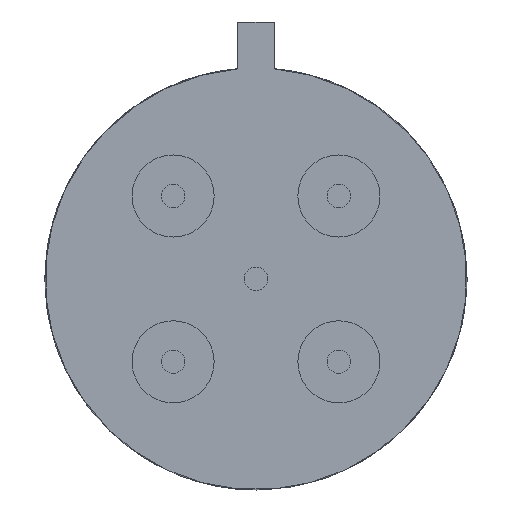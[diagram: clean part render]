
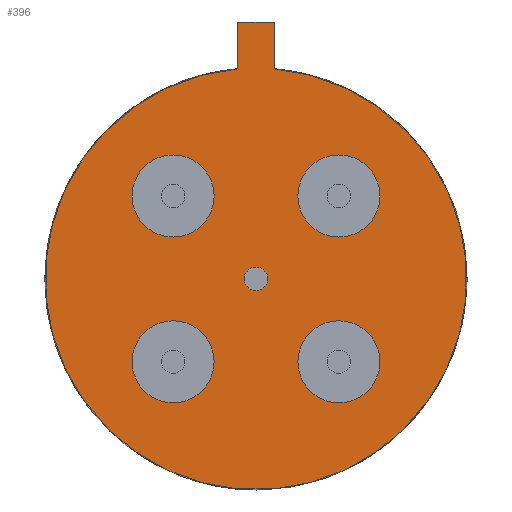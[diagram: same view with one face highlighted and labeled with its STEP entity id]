
A CAD part, front view. The second image highlights one B-rep face of the part: STEP entity #396.
In plain terms, the highlighted planar face has unit normal (0, -1, 0).
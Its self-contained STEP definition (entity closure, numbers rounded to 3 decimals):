
#13 = DIRECTION ( 'NONE',  ( 1., 0., 0. ) ) ;
#31 = VERTEX_POINT ( 'NONE', #162 ) ;
#36 = PLANE ( 'NONE',  #437 ) ;
#57 = DIRECTION ( 'NONE',  ( 0., -1., 0. ) ) ;
#59 = AXIS2_PLACEMENT_3D ( 'NONE', #431, #100, #511 ) ;
#64 = EDGE_CURVE ( 'NONE', #262, #380, #111, .T. ) ;
#66 = CARTESIAN_POINT ( 'NONE',  ( -0.394, -0.762, 0. ) ) ;
#69 = EDGE_CURVE ( 'NONE', #118, #118, #580, .T. ) ;
#76 = FACE_BOUND ( 'NONE', #451, .T. ) ;
#100 = DIRECTION ( 'NONE',  ( 0., 1., 0. ) ) ;
#101 = ORIENTED_EDGE ( 'NONE', *, *, #427, .F. ) ;
#107 = EDGE_LOOP ( 'NONE', ( #557, #406, #462, #444 ) ) ;
#111 = LINE ( 'NONE', #66, #197 ) ;
#118 = VERTEX_POINT ( 'NONE', #418 ) ;
#124 = CARTESIAN_POINT ( 'NONE',  ( 0.394, -0.762, 5.565 ) ) ;
#128 = CARTESIAN_POINT ( 'NONE',  ( 1.796, -0.762, 1.796 ) ) ;
#130 = CARTESIAN_POINT ( 'NONE',  ( 2.685, -0.762, 1.796 ) ) ;
#131 = CIRCLE ( 'NONE', #351, 0.254 ) ;
#135 = CARTESIAN_POINT ( 'NONE',  ( 2.685, -0.762, -1.796 ) ) ;
#137 = FACE_BOUND ( 'NONE', #246, .T. ) ;
#153 = CARTESIAN_POINT ( 'NONE',  ( -0.394, -0.762, 5.565 ) ) ;
#162 = CARTESIAN_POINT ( 'NONE',  ( 0.394, -0.762, 4.549 ) ) ;
#166 = AXIS2_PLACEMENT_3D ( 'NONE', #274, #224, #278 ) ;
#168 = DIRECTION ( 'NONE',  ( 0., 0., -1. ) ) ;
#178 = VERTEX_POINT ( 'NONE', #124 ) ;
#197 = VECTOR ( 'NONE', #280, 1000. ) ;
#205 = DIRECTION ( 'NONE',  ( 0., -1., 0. ) ) ;
#214 = EDGE_LOOP ( 'NONE', ( #101 ) ) ;
#219 = LINE ( 'NONE', #426, #581 ) ;
#224 = DIRECTION ( 'NONE',  ( 0., -1., 0. ) ) ;
#225 = EDGE_CURVE ( 'NONE', #607, #607, #413, .T. ) ;
#243 = DIRECTION ( 'NONE',  ( 0., -1., 0. ) ) ;
#244 = EDGE_CURVE ( 'NONE', #553, #553, #521, .T. ) ;
#246 = EDGE_LOOP ( 'NONE', ( #623 ) ) ;
#247 = DIRECTION ( 'NONE',  ( 0., -1., 0. ) ) ;
#251 = AXIS2_PLACEMENT_3D ( 'NONE', #128, #247, #517 ) ;
#256 = LINE ( 'NONE', #461, #545 ) ;
#260 = CARTESIAN_POINT ( 'NONE',  ( 1.796, -0.762, -1.796 ) ) ;
#262 = VERTEX_POINT ( 'NONE', #153 ) ;
#267 = CARTESIAN_POINT ( 'NONE',  ( -1.796, -0.762, 1.796 ) ) ;
#274 = CARTESIAN_POINT ( 'NONE',  ( -1.796, -0.762, -1.796 ) ) ;
#278 = DIRECTION ( 'NONE',  ( 1., 0., 0. ) ) ;
#280 = DIRECTION ( 'NONE',  ( 0., 0., -1. ) ) ;
#289 = DIRECTION ( 'NONE',  ( 1., 0., 0. ) ) ;
#293 = CARTESIAN_POINT ( 'NONE',  ( -0.394, -0.762, 4.549 ) ) ;
#302 = CIRCLE ( 'NONE', #251, 0.889 ) ;
#308 = EDGE_LOOP ( 'NONE', ( #566 ) ) ;
#311 = EDGE_CURVE ( 'NONE', #178, #31, #219, .T. ) ;
#320 = DIRECTION ( 'NONE',  ( 1., 0., 0. ) ) ;
#339 = CARTESIAN_POINT ( 'NONE',  ( 0.254, -0.762, 0. ) ) ;
#344 = FACE_BOUND ( 'NONE', #308, .T. ) ;
#348 = FACE_OUTER_BOUND ( 'NONE', #107, .T. ) ;
#351 = AXIS2_PLACEMENT_3D ( 'NONE', #363, #574, #673 ) ;
#357 = EDGE_CURVE ( 'NONE', #31, #380, #478, .T. ) ;
#363 = CARTESIAN_POINT ( 'NONE',  ( 0., -0.762, 0. ) ) ;
#366 = EDGE_CURVE ( 'NONE', #262, #178, #256, .T. ) ;
#380 = VERTEX_POINT ( 'NONE', #293 ) ;
#389 = CARTESIAN_POINT ( 'NONE',  ( 0., -0.762, 0. ) ) ;
#395 = ORIENTED_EDGE ( 'NONE', *, *, #225, .F. ) ;
#396 = ADVANCED_FACE ( 'Defeatured_0_12', ( #452, #608, #137, #344, #76, #348 ), #36, .T. ) ;
#397 = VERTEX_POINT ( 'NONE', #339 ) ;
#406 = ORIENTED_EDGE ( 'NONE', *, *, #311, .F. ) ;
#413 = CIRCLE ( 'NONE', #456, 0.889 ) ;
#418 = CARTESIAN_POINT ( 'NONE',  ( -0.907, -0.762, -1.796 ) ) ;
#426 = CARTESIAN_POINT ( 'NONE',  ( 0.394, -0.762, 0. ) ) ;
#427 = EDGE_CURVE ( 'NONE', #593, #593, #302, .T. ) ;
#431 = CARTESIAN_POINT ( 'NONE',  ( 0., -0.762, 0. ) ) ;
#437 = AXIS2_PLACEMENT_3D ( 'NONE', #389, #243, #450 ) ;
#444 = ORIENTED_EDGE ( 'NONE', *, *, #64, .T. ) ;
#450 = DIRECTION ( 'NONE',  ( 1., 0., 0. ) ) ;
#451 = EDGE_LOOP ( 'NONE', ( #650 ) ) ;
#452 = FACE_BOUND ( 'NONE', #214, .T. ) ;
#456 = AXIS2_PLACEMENT_3D ( 'NONE', #260, #205, #320 ) ;
#461 = CARTESIAN_POINT ( 'NONE',  ( 0., -0.762, 5.565 ) ) ;
#462 = ORIENTED_EDGE ( 'NONE', *, *, #366, .F. ) ;
#478 = CIRCLE ( 'NONE', #59, 4.566 ) ;
#511 = DIRECTION ( 'NONE',  ( -1., 0., 0. ) ) ;
#517 = DIRECTION ( 'NONE',  ( 1., 0., 0. ) ) ;
#521 = CIRCLE ( 'NONE', #659, 0.889 ) ;
#535 = EDGE_CURVE ( 'NONE', #397, #397, #131, .T. ) ;
#545 = VECTOR ( 'NONE', #289, 1000. ) ;
#553 = VERTEX_POINT ( 'NONE', #651 ) ;
#557 = ORIENTED_EDGE ( 'NONE', *, *, #357, .F. ) ;
#566 = ORIENTED_EDGE ( 'NONE', *, *, #69, .F. ) ;
#574 = DIRECTION ( 'NONE',  ( 0., -1., 0. ) ) ;
#580 = CIRCLE ( 'NONE', #166, 0.889 ) ;
#581 = VECTOR ( 'NONE', #168, 1000. ) ;
#586 = EDGE_LOOP ( 'NONE', ( #395 ) ) ;
#593 = VERTEX_POINT ( 'NONE', #130 ) ;
#607 = VERTEX_POINT ( 'NONE', #135 ) ;
#608 = FACE_BOUND ( 'NONE', #586, .T. ) ;
#623 = ORIENTED_EDGE ( 'NONE', *, *, #244, .F. ) ;
#650 = ORIENTED_EDGE ( 'NONE', *, *, #535, .F. ) ;
#651 = CARTESIAN_POINT ( 'NONE',  ( -0.907, -0.762, 1.796 ) ) ;
#659 = AXIS2_PLACEMENT_3D ( 'NONE', #267, #57, #13 ) ;
#673 = DIRECTION ( 'NONE',  ( 1., 0., 0. ) ) ;
